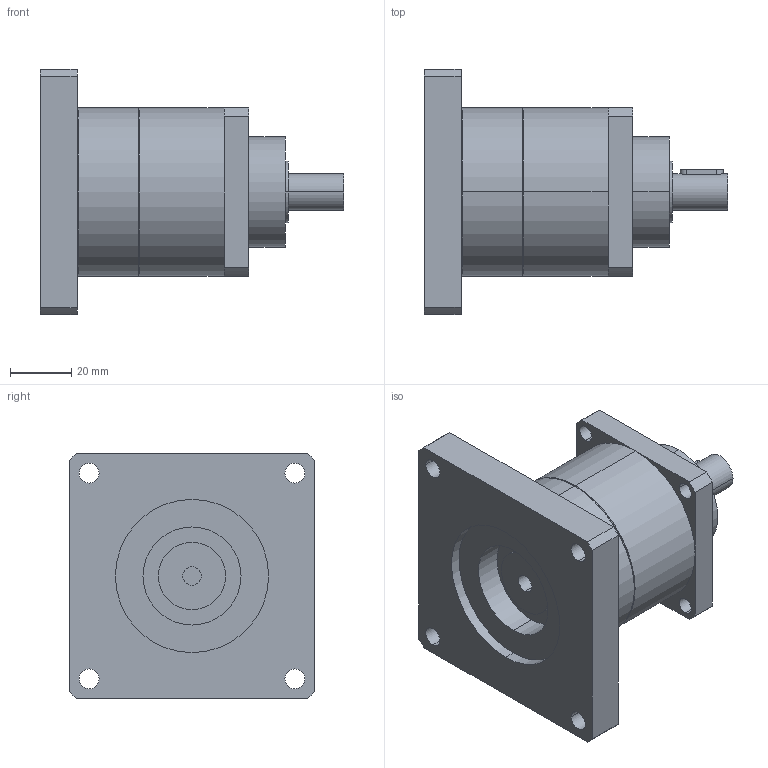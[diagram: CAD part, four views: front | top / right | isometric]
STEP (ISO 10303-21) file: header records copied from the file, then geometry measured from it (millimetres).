
FILE_DESCRIPTION(('CoCreate Modeling STEP Export'),'2;1');
FILE_NAME('GPT55_ig-3-4-5-7-10_12_B5A_6_P27.stp','2014-08-25T14:33:03',(''),(''),'CoCreate Modeling STEP processor for AP214 (Solid Model)','CoCreate Modeling 16.00C 25-Feb-2009 (C) Parametric Technology GmbH','');
FILE_SCHEMA(('AUTOMOTIVE_DESIGN { 1 0 10303 214 1 1 1 1 }'));
Length unit declared in the file: millimetre
Products named in the file (2): GPT55_ig-3-4-5-7-10_12_B5A_6_P27
Assembly tree (1 placements, depth 2):
  GPT55_ig-3-4-5-7-10_12_B5A_6_P27
    GPT55_ig-3-4-5-7-10_12_B5A_6_P27
Bounding box: 99 x 80 x 80 mm (x, y, z)
Volume: 213740.5 mm3; surface area: 33377.6 mm2
Topology: 1 solids, 1 shells, 77 faces, 204 edges, 139 vertices
Faces by surface type: cylinder 46, plane 27, cone 4
Entity records: 2515 total; most frequent: CARTESIAN_POINT 710, ORIENTED_EDGE 408, DIRECTION 318, EDGE_CURVE 204, VERTEX_POINT 139, AXIS2_PLACEMENT_3D 117, EDGE_LOOP 103, VECTOR 84
